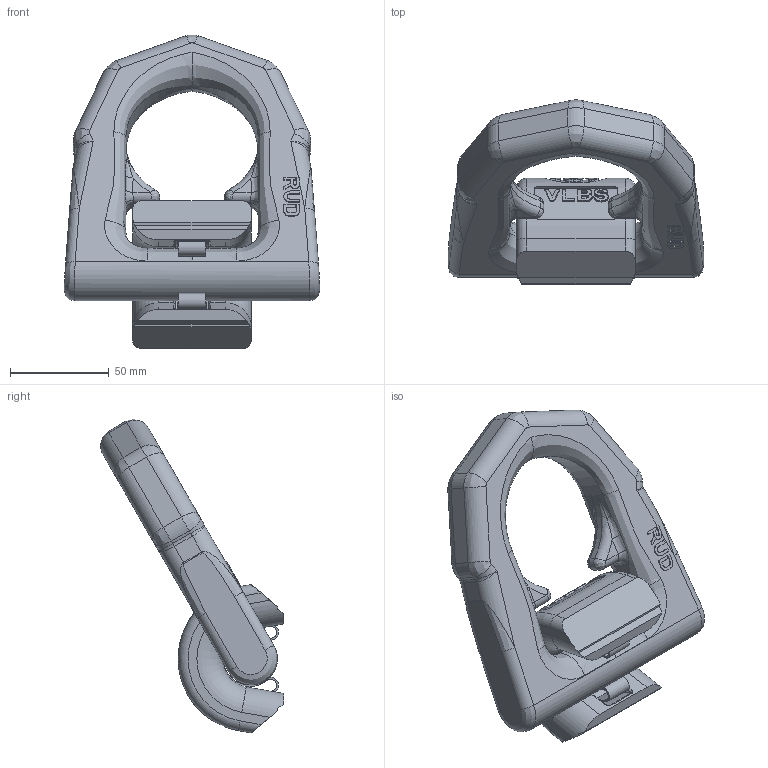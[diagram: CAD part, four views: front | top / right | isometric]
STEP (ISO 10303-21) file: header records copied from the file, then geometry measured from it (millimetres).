
FILE_DESCRIPTION((''),'2;1');
FILE_NAME('001-M32121-P5_ASM','2017-10-18T',('anja.joas'),(''),'PRO/ENGINEER BY PARAMETRIC TECHNOLOGY CORPORATION, 2011490','PRO/ENGINEER BY PARAMETRIC TECHNOLOGY CORPORATION, 2011490','');
FILE_SCHEMA(('CONFIG_CONTROL_DESIGN'));
Length unit declared in the file: millimetre
Products named in the file (4): 001-M32121-P6; 001-M34887-P01; 001-M31417-P-1; 001-M32121-P5_ASM
Assembly tree (3 placements, depth 2):
  001-M32121-P5_ASM
    001-M32121-P6
    001-M34887-P01
    001-M31417-P-1
Bounding box: 129.17 x 92.89 x 158.69 mm (x, y, z)
Volume: 368824.2 mm3; surface area: 60556.3 mm2
Topology: 3 solids, 3 shells, 553 faces, 1450 edges, 924 vertices
Faces by surface type: plane 280, cylinder 120, extrusion 73, bspline 60, torus 16, sphere 4
Entity records: 35193 total; most frequent: CARTESIAN_POINT 22260, ORIENTED_EDGE 2900, DIRECTION 2275, EDGE_CURVE 1450, VERTEX_POINT 924, VECTOR 859, LINE 786, AXIS2_PLACEMENT_3D 708
